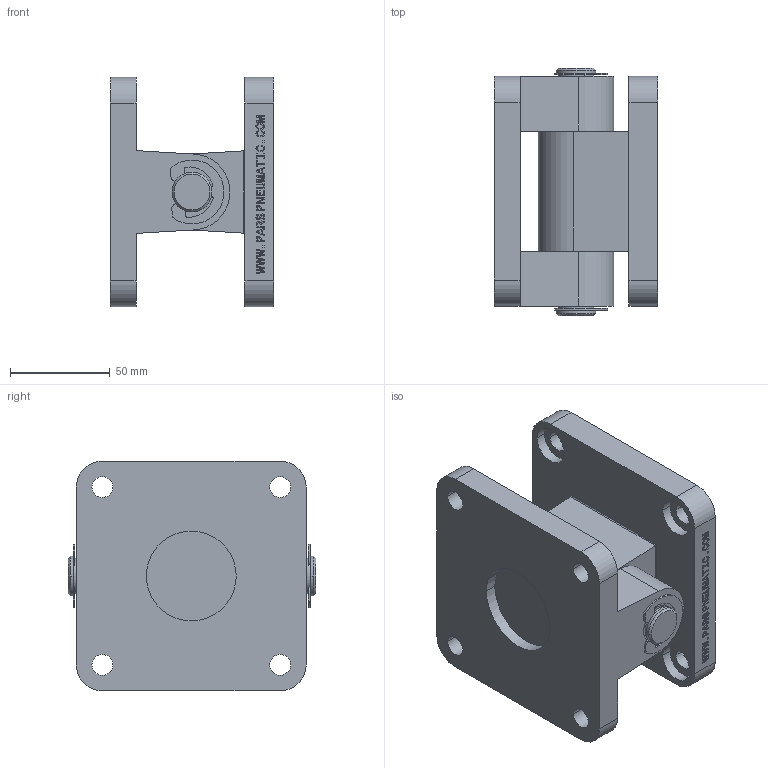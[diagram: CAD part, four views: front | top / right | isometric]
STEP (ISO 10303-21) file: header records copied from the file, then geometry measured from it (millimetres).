
FILE_DESCRIPTION(('CATIA V5 STEP Exchange'),'2;1');
FILE_NAME('D:\stp file for catalog\BAST-CAB\CAB 100.stp','2018-06-13T06:14:29+00:00',('none'),('none'),'CATIA Version 5-6 Release 2016','CATIA V5 STEP AP203','none');
FILE_SCHEMA(('CONFIG_CONTROL_DESIGN'));
Length unit declared in the file: millimetre
Products named in the file (1): PNC-CAB 100
Assembly tree (6 placements, depth 2):
  PNC-CAB 100
    #57
    #14266
    #15547
    #15570
    #16039
    #16793
Bounding box: 82 x 124 x 115 mm (x, y, z)
Volume: 521791 mm3; surface area: 103064.6 mm2
Topology: 5 solids, 5 shells, 583 faces, 1589 edges, 1058 vertices
Faces by surface type: plane 484, cylinder 95, cone 4
Entity records: 17524 total; most frequent: ORIENTED_EDGE 3178, CARTESIAN_POINT 3131, DIRECTION 2485, EDGE_CURVE 1589, VECTOR 1395, LINE 1395, VERTEX_POINT 1058, EDGE_LOOP 647
